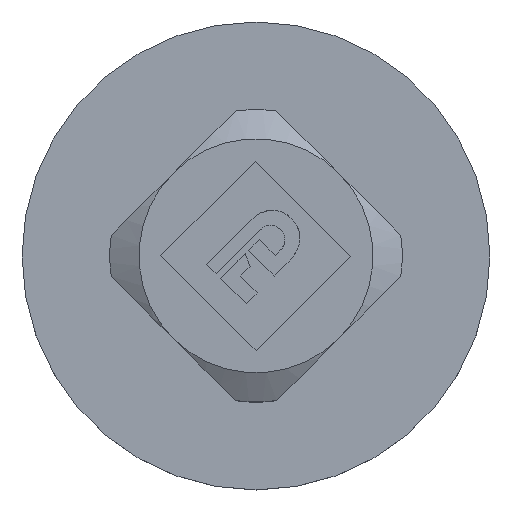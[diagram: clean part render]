
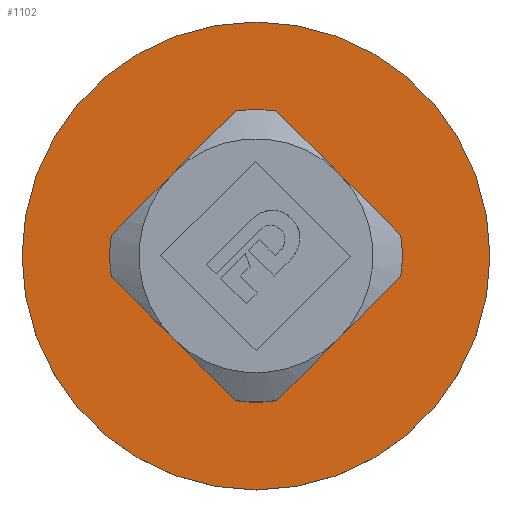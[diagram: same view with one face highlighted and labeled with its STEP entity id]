
A CAD part, top view. The second image highlights one B-rep face of the part: STEP entity #1102.
In plain terms, the highlighted planar face has unit normal (0, 0, 1).
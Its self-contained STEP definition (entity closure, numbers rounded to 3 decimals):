
#23=FACE_BOUND('',#399,.T.);
#103=PLANE('',#1209);
#112=LINE('',#1551,#193);
#115=LINE('',#1556,#196);
#175=LINE('',#1760,#256);
#176=LINE('',#1763,#257);
#193=VECTOR('',#1270,10.);
#196=VECTOR('',#1275,10.);
#256=VECTOR('',#1397,10.);
#257=VECTOR('',#1400,10.);
#329=FACE_OUTER_BOUND('',#398,.T.);
#398=EDGE_LOOP('',(#939,#940));
#399=EDGE_LOOP('',(#941,#942,#943,#944,#945,#946,#947,#948));
#428=CIRCLE('',#1155,12.5);
#429=CIRCLE('',#1157,12.5);
#435=CIRCLE('',#1189,12.5);
#436=CIRCLE('',#1193,12.5);
#445=CIRCLE('',#1207,20.);
#446=CIRCLE('',#1208,20.);
#474=VERTEX_POINT('',#1536);
#475=VERTEX_POINT('',#1538);
#476=VERTEX_POINT('',#1542);
#477=VERTEX_POINT('',#1544);
#478=VERTEX_POINT('',#1548);
#479=VERTEX_POINT('',#1550);
#480=VERTEX_POINT('',#1554);
#530=VERTEX_POINT('',#1762);
#539=VERTEX_POINT('',#1789);
#540=VERTEX_POINT('',#1790);
#588=EDGE_CURVE('',#475,#474,#428,.T.);
#591=EDGE_CURVE('',#477,#476,#429,.T.);
#594=EDGE_CURVE('',#479,#478,#112,.T.);
#597=EDGE_CURVE('',#476,#480,#115,.T.);
#670=EDGE_CURVE('',#480,#479,#435,.T.);
#671=EDGE_CURVE('',#474,#477,#175,.T.);
#672=EDGE_CURVE('',#530,#475,#176,.T.);
#674=EDGE_CURVE('',#478,#530,#436,.T.);
#684=EDGE_CURVE('',#539,#540,#445,.T.);
#685=EDGE_CURVE('',#540,#539,#446,.T.);
#939=ORIENTED_EDGE('',*,*,#684,.T.);
#940=ORIENTED_EDGE('',*,*,#685,.T.);
#941=ORIENTED_EDGE('',*,*,#672,.T.);
#942=ORIENTED_EDGE('',*,*,#588,.T.);
#943=ORIENTED_EDGE('',*,*,#671,.T.);
#944=ORIENTED_EDGE('',*,*,#591,.T.);
#945=ORIENTED_EDGE('',*,*,#597,.T.);
#946=ORIENTED_EDGE('',*,*,#670,.T.);
#947=ORIENTED_EDGE('',*,*,#594,.T.);
#948=ORIENTED_EDGE('',*,*,#674,.T.);
#1102=ADVANCED_FACE('',(#329,#23),#103,.T.);
#1155=AXIS2_PLACEMENT_3D('',#1539,#1258,#1259);
#1157=AXIS2_PLACEMENT_3D('',#1545,#1264,#1265);
#1189=AXIS2_PLACEMENT_3D('',#1758,#1393,#1394);
#1193=AXIS2_PLACEMENT_3D('',#1766,#1404,#1405);
#1207=AXIS2_PLACEMENT_3D('',#1791,#1433,#1434);
#1208=AXIS2_PLACEMENT_3D('',#1792,#1435,#1436);
#1209=AXIS2_PLACEMENT_3D('',#1794,#1438,#1439);
#1258=DIRECTION('center_axis',(0.,0.,-1.));
#1259=DIRECTION('ref_axis',(1.,0.,0.));
#1264=DIRECTION('center_axis',(0.,0.,-1.));
#1265=DIRECTION('ref_axis',(1.,0.,0.));
#1270=DIRECTION('',(0.707,-0.707,0.));
#1275=DIRECTION('',(0.707,0.707,0.));
#1393=DIRECTION('center_axis',(0.,0.,-1.));
#1394=DIRECTION('ref_axis',(1.,0.,0.));
#1397=DIRECTION('',(-0.707,0.707,0.));
#1400=DIRECTION('',(-0.707,-0.707,0.));
#1404=DIRECTION('center_axis',(0.,0.,-1.));
#1405=DIRECTION('ref_axis',(1.,0.,0.));
#1433=DIRECTION('center_axis',(0.,0.,1.));
#1434=DIRECTION('ref_axis',(1.,0.,0.));
#1435=DIRECTION('center_axis',(0.,0.,1.));
#1436=DIRECTION('ref_axis',(1.,0.,0.));
#1438=DIRECTION('center_axis',(0.,0.,1.));
#1439=DIRECTION('ref_axis',(1.,0.,0.));
#1536=CARTESIAN_POINT('',(-1.768,-12.374,15.));
#1538=CARTESIAN_POINT('',(1.768,-12.374,15.));
#1539=CARTESIAN_POINT('Origin',(0.,0.,15.));
#1542=CARTESIAN_POINT('',(-12.374,1.768,15.));
#1544=CARTESIAN_POINT('',(-12.374,-1.768,15.));
#1545=CARTESIAN_POINT('Origin',(0.,0.,15.));
#1548=CARTESIAN_POINT('',(12.374,1.768,15.));
#1550=CARTESIAN_POINT('',(1.768,12.374,15.));
#1551=CARTESIAN_POINT('',(6.919,7.223,15.));
#1554=CARTESIAN_POINT('',(-1.768,12.374,15.));
#1556=CARTESIAN_POINT('',(-12.223,1.919,15.));
#1758=CARTESIAN_POINT('Origin',(0.,0.,15.));
#1760=CARTESIAN_POINT('',(-1.919,-12.223,15.));
#1762=CARTESIAN_POINT('',(12.374,-1.768,15.));
#1763=CARTESIAN_POINT('',(7.223,-6.919,15.));
#1766=CARTESIAN_POINT('Origin',(0.,0.,15.));
#1789=CARTESIAN_POINT('',(0.,-20.,15.));
#1790=CARTESIAN_POINT('',(0.,20.,15.));
#1791=CARTESIAN_POINT('Origin',(0.,0.,15.));
#1792=CARTESIAN_POINT('Origin',(0.,0.,15.));
#1794=CARTESIAN_POINT('Origin',(0.,-10.,15.));
